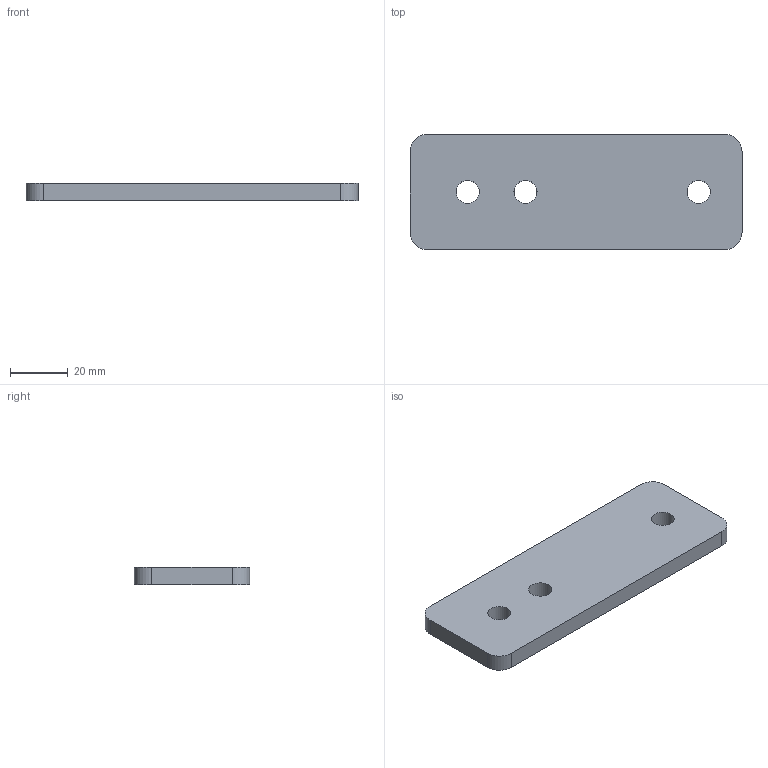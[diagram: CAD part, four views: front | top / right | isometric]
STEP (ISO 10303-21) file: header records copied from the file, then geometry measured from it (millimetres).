
FILE_DESCRIPTION(/* description */ ('BEAM SUPPORT BRACKET FOR PROFILE 40x40 FOR PROFILE 380-1000'),/* implementation_level */ '2;1');
FILE_NAME(/* name */ '\\carryline.intra\privat\users\mathias\Desktop\Tillfälliga filer\100-1200.stp',/* time_stamp */ '2018-11-20T07:04:53+01:00',/* author */ ('PL'),/* organization */ ('CARRYLINE'),/* preprocessor_version */ 'ST-DEVELOPER v17',/* originating_system */ 'Autodesk Inventor 2018',/* authorisation */ '');
FILE_SCHEMA (('AUTOMOTIVE_DESIGN { 1 0 10303 214 3 1 1 }'));
Length unit declared in the file: millimetre
Products named in the file (1): 100-1200
Bounding box: 115 x 40 x 6 mm (x, y, z)
Volume: 26509.8 mm3; surface area: 11087.2 mm2
Topology: 1 solids, 1 shells, 13 faces, 36 edges, 25 vertices
Faces by surface type: cylinder 7, plane 6
Full cylindrical faces by diameter (mm): 8 x3
Entity records: 482 total; most frequent: DIRECTION 81, CARTESIAN_POINT 75, ORIENTED_EDGE 72, EDGE_CURVE 36, AXIS2_PLACEMENT_3D 31, VERTEX_POINT 25, EDGE_LOOP 19, LINE 19
